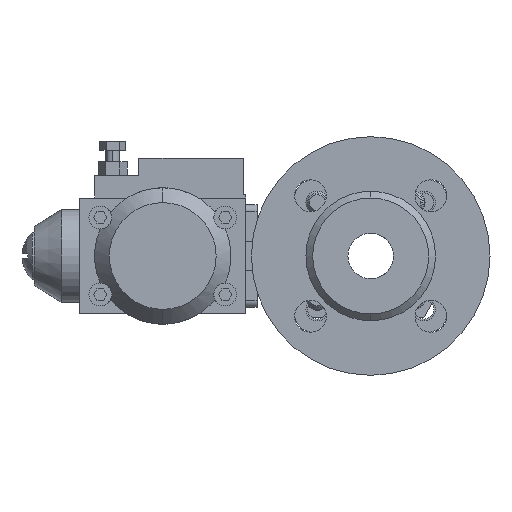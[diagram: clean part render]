
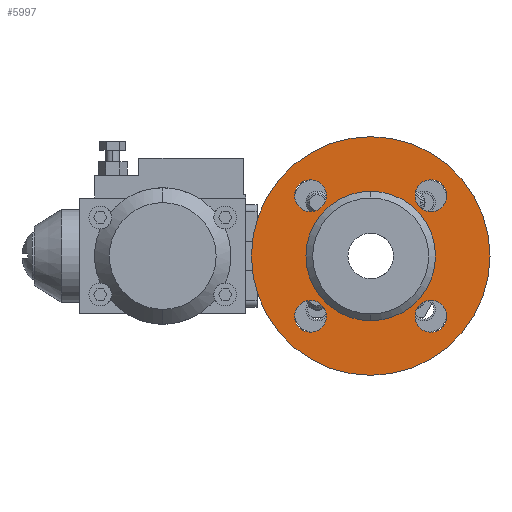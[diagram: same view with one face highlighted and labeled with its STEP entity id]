
A CAD part, left-side view. The second image highlights one B-rep face of the part: STEP entity #5997.
In plain terms, the highlighted planar face has unit normal (-1, 0, 0).
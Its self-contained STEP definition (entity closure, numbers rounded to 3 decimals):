
#1616=CARTESIAN_POINT('',(-50.,0.,0.));
#1617=DIRECTION('',(-1.,0.,0.));
#1618=DIRECTION('',(0.,0.,1.));
#1619=AXIS2_PLACEMENT_3D('',#1616,#1617,#1618);
#1621=CARTESIAN_POINT('',(-50.,0.,0.));
#1622=DIRECTION('',(-1.,0.,0.));
#1623=DIRECTION('',(0.,0.,-1.));
#1624=AXIS2_PLACEMENT_3D('',#1621,#1622,#1623);
#1626=CARTESIAN_POINT('',(-50.,0.,0.));
#1627=DIRECTION('',(-1.,0.,0.));
#1628=DIRECTION('',(0.,0.,1.));
#1629=AXIS2_PLACEMENT_3D('',#1626,#1627,#1628);
#1631=CARTESIAN_POINT('',(-50.,0.,0.));
#1632=DIRECTION('',(-1.,0.,0.));
#1633=DIRECTION('',(0.,0.,-1.));
#1634=AXIS2_PLACEMENT_3D('',#1631,#1632,#1633);
#1636=CARTESIAN_POINT('',(-50.,26.517,-26.517));
#1637=DIRECTION('',(-1.,0.,0.));
#1638=DIRECTION('',(0.,0.,1.));
#1639=AXIS2_PLACEMENT_3D('',#1636,#1637,#1638);
#1641=CARTESIAN_POINT('',(-50.,26.517,-26.517));
#1642=DIRECTION('',(-1.,0.,0.));
#1643=DIRECTION('',(0.,0.,-1.));
#1644=AXIS2_PLACEMENT_3D('',#1641,#1642,#1643);
#1646=CARTESIAN_POINT('',(-50.,-26.517,-26.517));
#1647=DIRECTION('',(-1.,0.,0.));
#1648=DIRECTION('',(0.,1.,0.));
#1649=AXIS2_PLACEMENT_3D('',#1646,#1647,#1648);
#1651=CARTESIAN_POINT('',(-50.,-26.517,-26.517));
#1652=DIRECTION('',(-1.,0.,0.));
#1653=DIRECTION('',(0.,-1.,0.));
#1654=AXIS2_PLACEMENT_3D('',#1651,#1652,#1653);
#1656=CARTESIAN_POINT('',(-50.,-26.517,26.517));
#1657=DIRECTION('',(-1.,0.,0.));
#1658=DIRECTION('',(0.,0.,-1.));
#1659=AXIS2_PLACEMENT_3D('',#1656,#1657,#1658);
#1661=CARTESIAN_POINT('',(-50.,-26.517,26.517));
#1662=DIRECTION('',(-1.,0.,0.));
#1663=DIRECTION('',(0.,0.,1.));
#1664=AXIS2_PLACEMENT_3D('',#1661,#1662,#1663);
#1666=CARTESIAN_POINT('',(-50.,26.517,26.517));
#1667=DIRECTION('',(-1.,0.,0.));
#1668=DIRECTION('',(0.,-1.,0.));
#1669=AXIS2_PLACEMENT_3D('',#1666,#1667,#1668);
#1671=CARTESIAN_POINT('',(-50.,26.517,26.517));
#1672=DIRECTION('',(-1.,0.,0.));
#1673=DIRECTION('',(0.,1.,0.));
#1674=AXIS2_PLACEMENT_3D('',#1671,#1672,#1673);
#3178=CARTESIAN_POINT('',(-50.,0.,52.5));
#3179=CARTESIAN_POINT('',(-50.,0.,-52.5));
#3180=VERTEX_POINT('',#3178);
#3181=VERTEX_POINT('',#3179);
#3190=CARTESIAN_POINT('',(-50.,0.,28.5));
#3191=CARTESIAN_POINT('',(-50.,0.,-28.5));
#3192=VERTEX_POINT('',#3190);
#3193=VERTEX_POINT('',#3191);
#3273=CARTESIAN_POINT('',(-50.,26.517,-19.517));
#3274=CARTESIAN_POINT('',(-50.,26.517,-33.517));
#3275=VERTEX_POINT('',#3273);
#3276=VERTEX_POINT('',#3274);
#3281=CARTESIAN_POINT('',(-50.,-19.517,-26.517));
#3282=CARTESIAN_POINT('',(-50.,-33.517,-26.517));
#3283=VERTEX_POINT('',#3281);
#3284=VERTEX_POINT('',#3282);
#3289=CARTESIAN_POINT('',(-50.,-26.517,19.517));
#3290=CARTESIAN_POINT('',(-50.,-26.517,33.517));
#3291=VERTEX_POINT('',#3289);
#3292=VERTEX_POINT('',#3290);
#3297=CARTESIAN_POINT('',(-50.,19.517,26.517));
#3298=CARTESIAN_POINT('',(-50.,33.517,26.517));
#3299=VERTEX_POINT('',#3297);
#3300=VERTEX_POINT('',#3298);
#5958=CARTESIAN_POINT('',(-50.,0.,0.));
#5959=DIRECTION('',(-1.,0.,0.));
#5960=DIRECTION('',(0.,0.,1.));
#5961=AXIS2_PLACEMENT_3D('',#5958,#5959,#5960);
#5962=PLANE('',#5961);
#5964=ORIENTED_EDGE('',*,*,#5963,.F.);
#5966=ORIENTED_EDGE('',*,*,#5965,.F.);
#5967=EDGE_LOOP('',(#5964,#5966));
#5968=FACE_OUTER_BOUND('',#5967,.F.);
#5969=ORIENTED_EDGE('',*,*,#5938,.T.);
#5970=ORIENTED_EDGE('',*,*,#5952,.T.);
#5971=EDGE_LOOP('',(#5969,#5970));
#5972=FACE_BOUND('',#5971,.F.);
#5974=ORIENTED_EDGE('',*,*,#5973,.T.);
#5976=ORIENTED_EDGE('',*,*,#5975,.T.);
#5977=EDGE_LOOP('',(#5974,#5976));
#5978=FACE_BOUND('',#5977,.F.);
#5980=ORIENTED_EDGE('',*,*,#5979,.T.);
#5982=ORIENTED_EDGE('',*,*,#5981,.T.);
#5983=EDGE_LOOP('',(#5980,#5982));
#5984=FACE_BOUND('',#5983,.F.);
#5986=ORIENTED_EDGE('',*,*,#5985,.T.);
#5988=ORIENTED_EDGE('',*,*,#5987,.T.);
#5989=EDGE_LOOP('',(#5986,#5988));
#5990=FACE_BOUND('',#5989,.F.);
#5992=ORIENTED_EDGE('',*,*,#5991,.T.);
#5994=ORIENTED_EDGE('',*,*,#5993,.T.);
#5995=EDGE_LOOP('',(#5992,#5994));
#5996=FACE_BOUND('',#5995,.F.);
#5997=ADVANCED_FACE('',(#5968,#5972,#5978,#5984,#5990,#5996),#5962,.T.);
#1620=CIRCLE('',#1619,52.5);
#1625=CIRCLE('',#1624,52.5);
#1630=CIRCLE('',#1629,28.5);
#1635=CIRCLE('',#1634,28.5);
#1640=CIRCLE('',#1639,7.);
#1645=CIRCLE('',#1644,7.);
#1650=CIRCLE('',#1649,7.);
#1655=CIRCLE('',#1654,7.);
#1660=CIRCLE('',#1659,7.);
#1665=CIRCLE('',#1664,7.);
#1670=CIRCLE('',#1669,7.);
#1675=CIRCLE('',#1674,7.);
#5938=EDGE_CURVE('',#3192,#3193,#1630,.T.);
#5952=EDGE_CURVE('',#3193,#3192,#1635,.T.);
#5963=EDGE_CURVE('',#3180,#3181,#1620,.T.);
#5965=EDGE_CURVE('',#3181,#3180,#1625,.T.);
#5973=EDGE_CURVE('',#3275,#3276,#1640,.T.);
#5975=EDGE_CURVE('',#3276,#3275,#1645,.T.);
#5979=EDGE_CURVE('',#3283,#3284,#1650,.T.);
#5981=EDGE_CURVE('',#3284,#3283,#1655,.T.);
#5985=EDGE_CURVE('',#3291,#3292,#1660,.T.);
#5987=EDGE_CURVE('',#3292,#3291,#1665,.T.);
#5991=EDGE_CURVE('',#3299,#3300,#1670,.T.);
#5993=EDGE_CURVE('',#3300,#3299,#1675,.T.);
